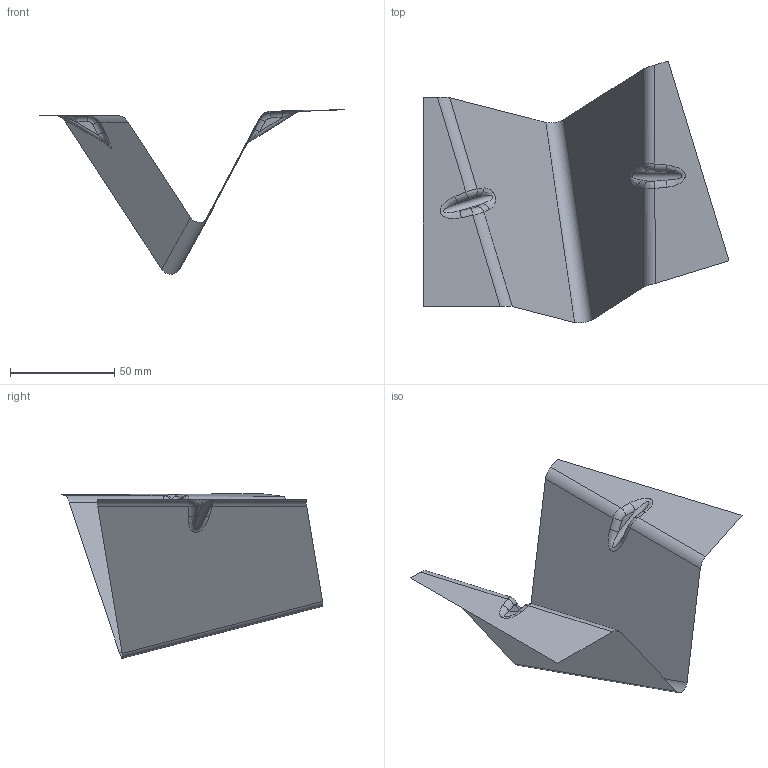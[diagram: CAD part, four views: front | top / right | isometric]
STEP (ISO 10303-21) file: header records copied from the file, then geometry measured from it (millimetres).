
FILE_DESCRIPTION(('CATIA V5 STEP Exchange'),'2;1');
FILE_NAME('C:\_Andres\UNIVERSIDAD\IQS\ASIGNATURAS\DAO\EXF\EXF-16172c\2inicio\Bonilla_Arrufat_Ej03_v4.stp','2017-03-05T19:32:03+00:00',('none'),('none'),'CATIA Version 5-6 Release 2014 SP1 HF18','CATIA V5 STEP AP203','none');
FILE_SCHEMA(('CONFIG_CONTROL_DESIGN'));
Length unit declared in the file: millimetre
Products named in the file (1): Bonilla_Arrufat_Ej03_v4
Bounding box: 146.4 x 125.27 x 78.75 mm (x, y, z)
Surface area: 21047.2 mm2 (no closed solid volume)
Topology: 0 solids, 1 shells, 31 faces, 78 edges, 48 vertices
Faces by surface type: cylinder 15, plane 8, bspline 8
Entity records: 2365 total; most frequent: CARTESIAN_POINT 1692, ORIENTED_EDGE 140, DIRECTION 90, EDGE_CURVE 78, VERTEX_POINT 48, VECTOR 40, LINE 40, ADVANCED_FACE 31
